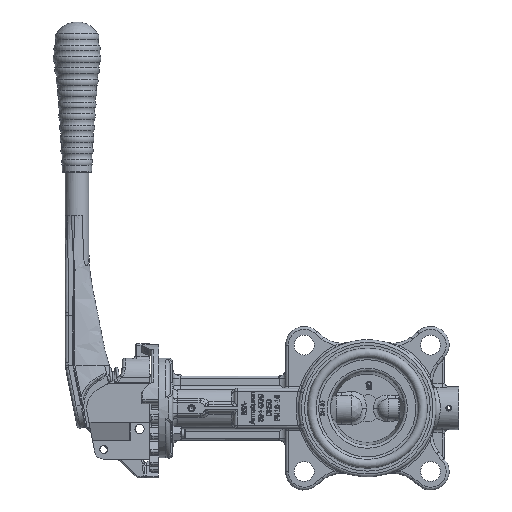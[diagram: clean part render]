
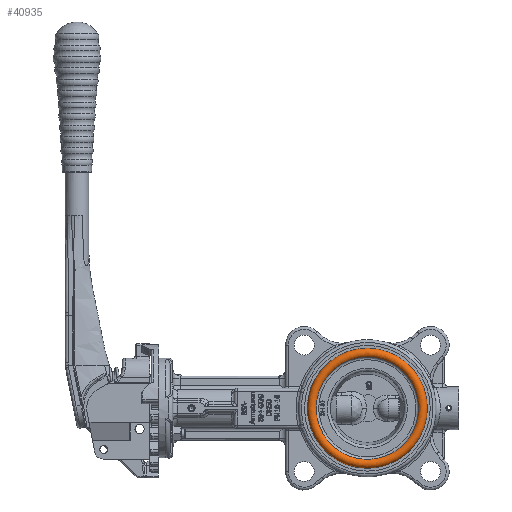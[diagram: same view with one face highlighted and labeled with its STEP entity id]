
A CAD part, left-side view. The second image highlights one B-rep face of the part: STEP entity #40935.
In plain terms, the highlighted toroidal (fillet/blend) face has major radius 38.75 mm and minor radius 3.25 mm.
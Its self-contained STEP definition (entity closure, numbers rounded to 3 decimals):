
#40901=CARTESIAN_POINT('',(-21.252,0.0,42.));
#40902=VERTEX_POINT('',#40901);
#40903=CARTESIAN_POINT('',(-21.252,0.0,0.0));
#40904=DIRECTION('',(-1.0,0.0,0.0));
#40905=DIRECTION('',(0.0,0.0,1.0));
#40906=AXIS2_PLACEMENT_3D('',#40903,#40904,#40905);
#40907=CIRCLE('',#40906,42.);
#40908=EDGE_CURVE('',#40902,#40902,#40907,.T.);
#40916=CARTESIAN_POINT('',(-21.252,0.0,0.0));
#40917=DIRECTION('',(-1.0,0.0,0.0));
#40918=DIRECTION('',(0.0,0.0,1.0));
#40919=AXIS2_PLACEMENT_3D('',#40916,#40917,#40918);
#40920=TOROIDAL_SURFACE('',#40919,38.75,3.25);
#40921=CARTESIAN_POINT('',(-22.645,0.0,35.814));
#40922=VERTEX_POINT('',#40921);
#40923=CARTESIAN_POINT('',(-22.645,0.0,0.0));
#40924=DIRECTION('',(-1.0,0.0,0.0));
#40925=DIRECTION('',(0.0,0.0,1.0));
#40926=AXIS2_PLACEMENT_3D('',#40923,#40924,#40925);
#40927=CIRCLE('',#40926,35.814);
#40928=EDGE_CURVE('',#40922,#40922,#40927,.T.);
#40929=ORIENTED_EDGE('',*,*,#40928,.F.);
#40930=EDGE_LOOP('',(#40929));
#40931=FACE_OUTER_BOUND('',#40930,.T.);
#40932=ORIENTED_EDGE('',*,*,#40908,.T.);
#40933=EDGE_LOOP('',(#40932));
#40934=FACE_BOUND('',#40933,.T.);
#40935=ADVANCED_FACE('',(#40931,#40934),#40920,.T.);
